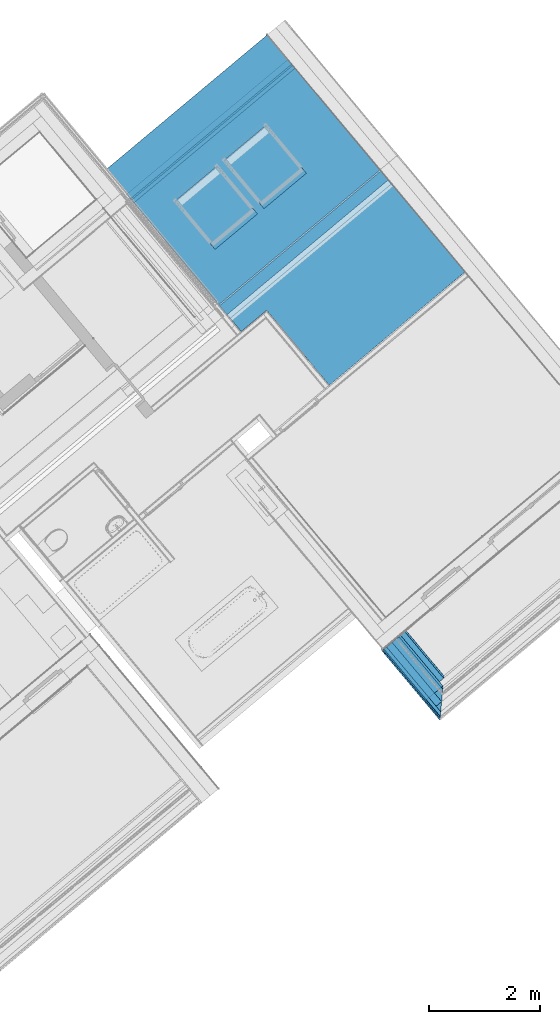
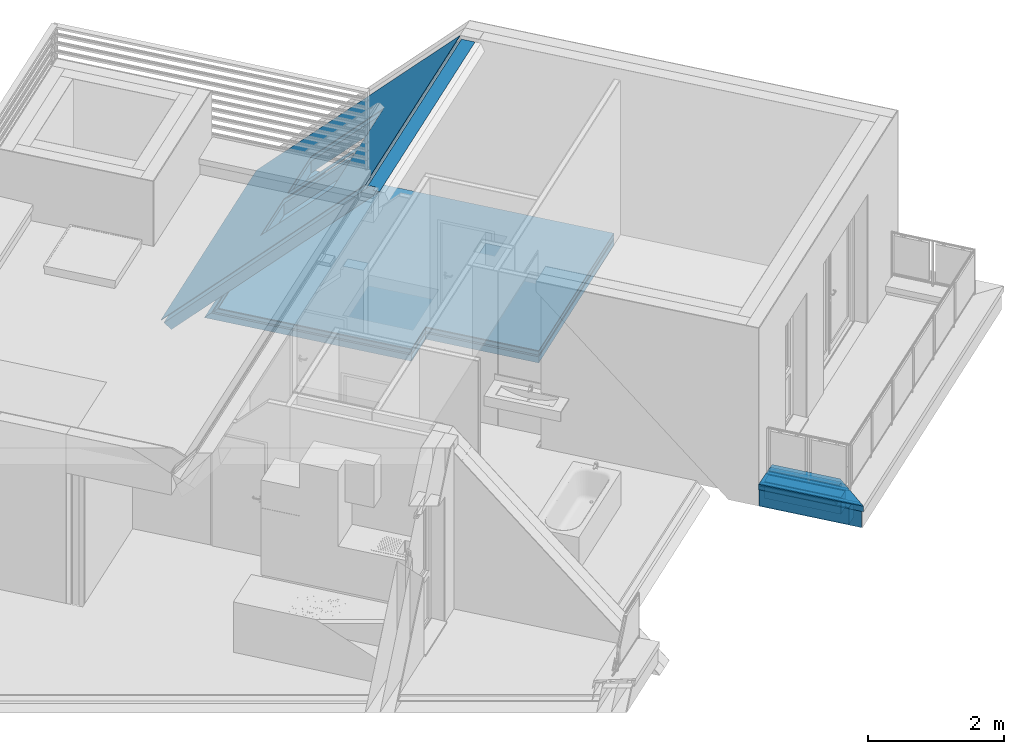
# One storey, part 32 of 50: 15 building element parts, 2 openings, 3 elements without a shape of their own.
"""IFC4 building model written with IfcOpenShell, lengths in metres."""

from ifc_helpers import new_model, entity, si_unit, converted_unit, derived_unit, direction, frame, origin_with_axes, place, context, subcontext, project, spatial, polygons, material, type_object, element, aggregate, save


model = new_model("IFC4")

# Units and contexts
model_context = context("Model", 3, precision=1e-05, world=origin_with_axes(), true_north=direction((0.0, 1.0)))
body_context = subcontext(model_context, "Body", "Model", "MODEL_VIEW")
ifc_project = project(units=[si_unit("LENGTHUNIT", "METRE"), si_unit("AREAUNIT", "SQUARE_METRE"), si_unit("VOLUMEUNIT", "CUBIC_METRE"), converted_unit("PLANEANGLEUNIT", "DEGREE", entity("IfcPlaneAngleMeasure", 0.0174532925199), si_unit("PLANEANGLEUNIT", "RADIAN"), dimensions=[0, 0, 0, 0, 0, 0, 0]), converted_unit("TIMEUNIT", "Year", entity("IfcTimeMeasure", 31556926.0), si_unit("TIMEUNIT", "SECOND"), dimensions=[0, 0, 1, 0, 0, 0, 0]), si_unit("MASSUNIT", "GRAM", prefix="KILO"), si_unit("THERMODYNAMICTEMPERATUREUNIT", "DEGREE_CELSIUS"), si_unit("LUMINOUSINTENSITYUNIT", "LUMEN"), si_unit("ENERGYUNIT", "JOULE", prefix="MEGA"), derived_unit("THERMALCONDUCTANCEUNIT", [(si_unit("POWERUNIT", "WATT"), 1), (si_unit("LENGTHUNIT", "METRE"), -1), (si_unit("THERMODYNAMICTEMPERATUREUNIT", "KELVIN"), -1)]), derived_unit("SPECIFICHEATCAPACITYUNIT", [(si_unit("ENERGYUNIT", "JOULE"), 1), (si_unit("MASSUNIT", "GRAM", prefix="KILO"), -1), (si_unit("THERMODYNAMICTEMPERATUREUNIT", "KELVIN"), -1)]), derived_unit("MASSDENSITYUNIT", [(si_unit("MASSUNIT", "GRAM", prefix="KILO"), 1), (si_unit("VOLUMEUNIT", "CUBIC_METRE"), -1)])], contexts=[model_context])

# Site, building, storey
site_placement = place(None, frame((-0.00153261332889, -0.00661245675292, 0.0), z_axis=(0.0, 0.0, 1.0), x_axis=(1.0, 0.0, 0.0)))
site = spatial("IfcSite", under=ifc_project, at=site_placement, Name="Gelände", CompositionType="ELEMENT")
building_placement = place(site_placement, origin_with_axes())
building = spatial("IfcBuilding", under=site, at=building_placement, Name="Gebäude", CompositionType="ELEMENT")
storey_placement = place(building_placement, frame((0.0, 0.0, 8.66), z_axis=(0.0, 0.0, 1.0), x_axis=(1.0, 0.0, 0.0)))
storey = spatial("IfcBuildingStorey", under=building, at=storey_placement, Name="DG2", CompositionType="ELEMENT", Elevation=8.66)

# Wall, building element parts
wall_type = type_object("IfcWallType", Name="Bauteil - Attika Terrasse 1.DG 574 x 410", PredefinedType="NOTDEFINED")
wall_placement = place(storey_placement, frame((8.86706086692, 16.7682826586, -0.2), z_axis=(0.0, 0.0, 1.0), x_axis=(-0.641709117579, 0.766948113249, 0.0)))
wall = element("IfcWall", 1, at=wall_placement, inside=storey, type_object=wall_type, Name="Wand-004", PredefinedType="NOTDEFINED")
ifc_material_1 = material(Name="Zementputz")
building_element_part_1_placement = place(wall_placement, origin_with_axes())
building_element_part_1 = element("IfcBuildingElementPart", 2, at=building_element_part_1_placement, material=ifc_material_1, Name="Zementputz", PredefinedType="NOTDEFINED", context=body_context, shape_type="Tessellation", body=[
    polygons([(-0.199999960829, 0.214999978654, 0.499999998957), (-0.199999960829, 0.199999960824, 0.499999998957), (1.39632208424, 0.199999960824, 0.499999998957), (1.39632208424, 0.214999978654, 0.499999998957), (-0.199999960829, 0.199999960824, 0.498822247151), (-0.199999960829, 0.214999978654, 0.498822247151), (-0.199999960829, 0.199999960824, 0.49100648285), (-0.199999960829, 0.199999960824, 0.488695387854), (-0.199999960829, 0.199999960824, 0.335), (-0.199999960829, 0.199999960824, 0.2), (1.39632208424, 0.199999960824, 0.2), (1.39632208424, 0.214999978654, 0.2), (-0.199999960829, 0.214999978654, 0.2), (-0.199999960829, 0.214999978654, 0.335), (-0.199999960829, 0.214999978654, 0.488695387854), (-0.199999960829, 0.214999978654, 0.49100648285)], [[[1, 2, 3, 4]], [[5, 2, 1, 6]], [[2, 5, 7, 8, 9, 10, 11, 3]], [[12, 4, 3, 11]], [[6, 1, 4, 12, 13, 14, 15, 16]], [[5, 6, 16, 7]], [[7, 16, 15, 8]], [[8, 15, 14, 9]], [[9, 14, 13, 10]], [[10, 13, 12, 11]]], closed=True),
])
ifc_material_2 = material(Name="Vollholz")
building_element_part_2_placement = place(wall_placement, origin_with_axes())
building_element_part_2 = element("IfcBuildingElementPart", 3, at=building_element_part_2_placement, material=ifc_material_2, Name="Vollholz", PredefinedType="NOTDEFINED", context=body_context, shape_type="Tessellation", body=[
    polygons([(-0.189984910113, 0.189984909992, 0.586106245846), (-0.130124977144, 0.130124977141, 0.584015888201), (1.39632208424, 0.130124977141, 0.584015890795), (1.39632208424, 0.189984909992, 0.586106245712), (-0.130124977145, 0.189996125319, 0.584015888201), (-0.130124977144, 0.130124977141, 0.575979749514), (-0.130124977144, 0.130124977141, 0.573880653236), (-0.130124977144, 0.130124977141, 0.567947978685), (-0.130124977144, 0.130124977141, 0.560000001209), (1.39632208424, 0.130124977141, 0.560000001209), (1.39632208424, 0.190124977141, 0.560000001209), (-0.130124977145, 0.190124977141, 0.560000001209), (-0.130124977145, 0.190082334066, 0.567947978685), (-0.130124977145, 0.190050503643, 0.573880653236), (-0.130124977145, 0.190039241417, 0.575979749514)], [[[1, 2, 3, 4]], [[5, 2, 1]], [[2, 6, 7, 8, 9, 10, 3]], [[3, 10, 11, 4]], [[5, 1, 4, 11, 12, 13, 14, 15]], [[2, 5, 15, 6]], [[6, 15, 14, 7]], [[7, 14, 13, 8]], [[8, 13, 12, 9]], [[9, 12, 11, 10]]], closed=True),
])
ifc_material_3 = material(Name="EPS 1")
building_element_part_3_placement = place(wall_placement, origin_with_axes())
building_element_part_3 = element("IfcBuildingElementPart", 4, at=building_element_part_3_placement, material=ifc_material_3, Name="EPS 1", PredefinedType="NOTDEFINED", context=body_context, shape_type="Tessellation", body=[
    polygons([(-2.44570586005e-10, 0.19999996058, 0.499999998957), (-2.39910313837e-10, 2.39914754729e-10, 0.499999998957), (1.39632208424, 2.39911202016e-10, 0.499999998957), (1.39632208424, 0.19999996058, 0.499999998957), (-2.39909425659e-10, 2.39914754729e-10, 0.498822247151), (-2.44572362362e-10, 0.19999996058, 0.498822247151), (-2.39909425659e-10, 2.39914754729e-10, 0.49100648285), (-2.39909425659e-10, 2.39914754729e-10, 0.488695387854), (-2.39909425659e-10, 2.39914754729e-10, 0.335), (-2.39910313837e-10, 2.39914754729e-10, 0.2), (1.39632208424, 2.39911202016e-10, 0.2), (1.39632208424, 0.19999996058, 0.2), (-2.44570586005e-10, 0.19999996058, 0.2), (-2.44572362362e-10, 0.19999996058, 0.335), (-2.44572362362e-10, 0.19999996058, 0.488695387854), (-2.44572362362e-10, 0.19999996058, 0.49100648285)], [[[1, 2, 3, 4]], [[5, 2, 1, 6]], [[2, 5, 7, 8, 9, 10, 11, 3]], [[11, 12, 4, 3]], [[6, 1, 4, 12, 13, 14, 15, 16]], [[5, 6, 16, 7]], [[7, 16, 15, 8]], [[8, 15, 14, 9]], [[9, 14, 13, 10]], [[10, 13, 12, 11]]], closed=True),
])
ifc_material_4 = material(Name="Brettschichtholz")
building_element_part_4_placement = place(wall_placement, origin_with_axes())
building_element_part_4 = element("IfcBuildingElementPart", 5, at=building_element_part_4_placement, material=ifc_material_4, Name="Brettschichtholz", PredefinedType="NOTDEFINED", context=body_context, shape_type="Tessellation", body=[
    polygons([(0.200000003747, -0.159999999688, 0.559999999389), (0.200000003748, -0.200000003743, 0.559999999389), (1.39632208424, -0.200000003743, 0.559999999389), (1.39632208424, -0.159999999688, 0.559999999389), (0.200000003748, -0.200000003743, 0.519224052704), (0.200000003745, -0.100000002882, 0.559999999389), (0.20000000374, 0.130124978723, 0.559999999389), (0.200000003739, 0.190124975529, 0.559999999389), (0.200000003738, 0.214999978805, 0.559999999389), (0.200000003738, 0.214999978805, 0.519224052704), (0.200000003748, -0.200000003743, 0.511361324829), (0.200000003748, -0.200000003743, 0.50905023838), (0.200000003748, -0.200000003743, 0.500000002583), (1.39632208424, -0.200000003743, 0.500000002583), (1.39632208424, 0.214999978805, 0.499999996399), (1.39632208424, 0.214999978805, 0.559999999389), (1.39632208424, 0.190124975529, 0.559999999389), (1.39632208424, 0.130124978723, 0.559999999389), (1.39632208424, -0.100000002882, 0.559999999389), (0.200000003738, 0.214999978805, 0.500000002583), (0.200000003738, 0.214999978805, 0.50905023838), (0.200000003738, 0.214999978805, 0.511361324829)], [[[1, 2, 3, 4]], [[5, 2, 1, 6, 7, 8, 9, 10]], [[2, 5, 11, 12, 13, 14, 3]], [[14, 15, 16, 17, 18, 19, 4, 3]], [[6, 1, 4, 19]], [[7, 6, 19, 18]], [[8, 7, 18, 17]], [[9, 8, 17, 16]], [[10, 9, 16, 15, 20, 21, 22]], [[5, 10, 22, 11]], [[11, 22, 21, 12]], [[12, 21, 20, 13]], [[13, 20, 15, 14]]], closed=True),
])
ifc_material_5 = material(Name="Stahlbeton")
building_element_part_5_placement = place(wall_placement, origin_with_axes())
building_element_part_5 = element("IfcBuildingElementPart", 6, at=building_element_part_5_placement, material=ifc_material_5, Name="Stahlbeton", PredefinedType="NOTDEFINED", context=body_context, shape_type="Tessellation", body=[
    polygons([(0.199999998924, -1.8283543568e-09, 0.500000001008), (0.199999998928, -0.199999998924, 0.500000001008), (1.39632208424, -0.199999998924, 0.500000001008), (1.39632208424, -1.8283543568e-09, 0.500000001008), (0.199999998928, -0.199999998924, 0.498822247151), (0.199999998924, -1.8283543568e-09, 0.498822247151), (0.199999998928, -0.199999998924, 0.49100648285), (0.199999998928, -0.199999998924, 0.488695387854), (0.199999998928, -0.199999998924, 0.335), (1.39632208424, -0.199999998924, 0.335000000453), (1.39632208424, -0.199999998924, 0.2), (1.39632208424, -1.8283543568e-09, 0.2), (0.199999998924, -1.8283543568e-09, 0.2), (0.199999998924, -1.8283543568e-09, 0.335), (0.199999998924, -1.8283543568e-09, 0.488695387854), (0.199999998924, -1.8283543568e-09, 0.49100648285), (0.199999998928, -0.199999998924, 0.2)], [[[1, 2, 3, 4]], [[5, 2, 1, 6]], [[2, 5, 7, 8, 9, 10, 3]], [[11, 12, 4, 3, 10]], [[6, 1, 4, 12, 13, 14, 15, 16]], [[5, 6, 16, 7]], [[7, 16, 15, 8]], [[8, 15, 14, 9]], [[9, 17, 11, 10]], [[17, 13, 12, 11]], [[9, 14, 13, 17]]], closed=True),
])
building_element_part_6_placement = place(wall_placement, origin_with_axes())
building_element_part_6 = element("IfcBuildingElementPart", 7, at=building_element_part_6_placement, material=ifc_material_2, Name="Vollholz", PredefinedType="NOTDEFINED", context=body_context, shape_type="Tessellation", body=[
    polygons([(0.100000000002, -0.1, 0.575979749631), (0.160110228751, -0.160110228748, 0.573880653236), (1.39632208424, -0.160110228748, 0.573880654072), (1.39632208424, -0.1, 0.575979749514), (0.16011022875, -0.1, 0.573880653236), (0.160063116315, -0.160063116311, 0.567947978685), (0.160000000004, -0.16, 0.560000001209), (1.39632208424, -0.16, 0.560000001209), (1.39632208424, -0.1, 0.560000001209), (0.160000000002, -0.1, 0.560000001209), (0.160063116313, -0.1, 0.567947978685)], [[[1, 2, 3, 4]], [[5, 2, 1]], [[2, 6, 7, 8, 3]], [[3, 8, 9, 4]], [[5, 1, 4, 9, 10, 11]], [[2, 5, 11, 6]], [[6, 11, 10, 7]], [[7, 10, 9, 8]]], closed=True),
])
building_element_part_7_placement = place(wall_placement, origin_with_axes())
building_element_part_7 = element("IfcBuildingElementPart", 8, at=building_element_part_7_placement, material=ifc_material_3, Name="EPS 1", PredefinedType="NOTDEFINED", context=body_context, shape_type="Tessellation", body=[
    polygons([(0.300000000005, -0.2, 0.560000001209), (0.300000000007, -0.3, 0.560000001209), (1.39632208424, -0.3, 0.560000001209), (1.39632208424, -0.2, 0.560000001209), (0.300000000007, -0.3, 0.519224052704), (0.300000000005, -0.2, 0.519224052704), (0.300000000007, -0.3, 0.511361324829), (0.300000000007, -0.3, 0.50905023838), (0.300000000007, -0.3, 0.499999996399), (0.300000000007, -0.3, 0.498822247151), (0.300000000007, -0.3, 0.49100648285), (0.300000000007, -0.3, 0.488695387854), (0.300000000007, -0.3, 0.335), (1.39632208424, -0.3, 0.335), (1.39632208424, -0.2, 0.335), (0.300000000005, -0.2, 0.335), (0.300000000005, -0.2, 0.488695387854), (0.300000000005, -0.2, 0.49100648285), (0.300000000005, -0.2, 0.498822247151), (0.300000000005, -0.2, 0.499999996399), (0.300000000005, -0.2, 0.50905023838), (0.300000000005, -0.2, 0.511361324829)], [[[1, 2, 3, 4]], [[5, 2, 1, 6]], [[2, 5, 7, 8, 9, 10, 11, 12, 13, 14, 3]], [[14, 15, 4, 3]], [[6, 1, 4, 15, 16, 17, 18, 19, 20, 21, 22]], [[5, 6, 22, 7]], [[7, 22, 21, 8]], [[8, 21, 20, 9]], [[9, 20, 19, 10]], [[10, 19, 18, 11]], [[11, 18, 17, 12]], [[12, 17, 16, 13]], [[13, 16, 15, 14]]], closed=True),
])
ifc_material_6 = material(Name="Holzwerkstoff")
building_element_part_8_placement = place(wall_placement, origin_with_axes())
building_element_part_8 = element("IfcBuildingElementPart", 9, at=building_element_part_8_placement, material=ifc_material_6, Name="Holzwerkstoff", PredefinedType="NOTDEFINED", context=body_context, shape_type="Tessellation", body=[
    polygons([(1.39632208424, -0.100000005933, 0.575979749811), (1.39632208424, -0.160110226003, 0.573880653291), (0.330207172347, -0.160110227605, 0.573880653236), (0.33028047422, -0.100000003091, 0.57597974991), (1.39632208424, 0.189984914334, 0.586106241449), (1.39632208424, 0.239999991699, 0.587852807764), (1.39632208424, 0.239276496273, 0.608570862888), (1.39632208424, -0.330698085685, 0.587938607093), (1.39632208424, -0.329999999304, 0.567947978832), (1.39632208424, 0.130124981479, 0.584015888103), (0.32999999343, -0.329999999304, 0.567947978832), (0.330207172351, -0.330207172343, 0.573880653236), (0.330280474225, -0.330280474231, 0.57597974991), (0.330561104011, 0.13012498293, 0.584015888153), (0.330634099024, 0.189984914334, 0.586106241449), (0.330695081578, 0.239999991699, 0.587852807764), (0.330698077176, 0.23999699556, 0.587938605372), (-0.239276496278, 0.239276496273, 0.608570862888), (0.330698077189, -0.330698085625, 0.587938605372), (0.330634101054, -0.330634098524, 0.586106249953), (0.330561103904, -0.330561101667, 0.584015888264)], [[[1, 2, 3, 4]], [[5, 6, 7, 8, 9, 2, 1, 10]], [[2, 9, 11, 3]], [[4, 3, 12, 13]], [[10, 1, 4, 14]], [[6, 5, 15, 16]], [[6, 16, 17, 18, 7]], [[8, 7, 18, 19]], [[9, 8, 19, 20, 21, 13, 12, 11]], [[5, 10, 14, 15]], [[11, 12, 3]], [[14, 4, 13, 21]], [[16, 15, 20, 19, 17]], [[18, 17, 19]], [[15, 14, 21, 20]]], closed=True),
])
ifc_material_7 = material(Name="Stahl")
building_element_part_9_placement = place(wall_placement, origin_with_axes())
building_element_part_9 = element("IfcBuildingElementPart", 10, at=building_element_part_9_placement, material=ifc_material_7, Name="Stahl", PredefinedType="NOTDEFINED", context=body_context, shape_type="Tessellation", body=[
    polygons([(-0.240150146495, 0.241500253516, 0.567947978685), (-0.240149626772, 0.241500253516, 0.559999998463), (-0.240149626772, 0.240149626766, 0.559999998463), (-0.240150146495, 0.240150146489, 0.567947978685), (-0.239585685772, 0.241500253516, 0.510007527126), (-0.23823188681, 0.241500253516, 0.511361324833), (-0.240146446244, 0.241500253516, 0.511361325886), (-0.240146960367, 0.241500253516, 0.519224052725), (-0.240150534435, 0.241500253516, 0.573880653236), (-0.240150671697, 0.241500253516, 0.575979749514), (-0.240151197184, 0.241500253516, 0.584015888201), (-0.240151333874, 0.241500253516, 0.586106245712), (-0.240151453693, 0.241500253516, 0.587938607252), (-0.240152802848, 0.241500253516, 0.608570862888), (-0.240152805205, 0.241500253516, 0.608602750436), (-0.202730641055, 0.241500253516, 0.608602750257), (-0.241500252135, 0.241500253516, 0.610006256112), (1.39632208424, 0.241500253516, 0.610006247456), (1.39632208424, 0.241500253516, 0.510007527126), (-0.240146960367, 0.240146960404, 0.519224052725), (-0.23823188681, 0.240146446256, 0.511361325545), (1.39632208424, 0.240146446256, 0.51136132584), (1.39632208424, 0.240152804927, 0.608602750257), (-0.202730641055, 0.240152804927, 0.608602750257), (-0.240152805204, 0.240152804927, 0.608602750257), (-0.240152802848, 0.240152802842, 0.608570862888), (-0.240151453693, 0.240151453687, 0.587938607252), (-0.240151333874, 0.240151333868, 0.586106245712), (-0.240151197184, 0.240151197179, 0.584015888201), (-0.240150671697, 0.240150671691, 0.575979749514), (-0.240150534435, 0.24015053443, 0.573880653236), (-0.240146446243, 0.240146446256, 0.51136132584), (-0.240542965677, 0.240542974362, 0.50905023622), (-0.23823188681, 0.238231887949, 0.51136132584), (-0.202730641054, 0.202730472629, 0.608602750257), (-0.201849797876, 0.201849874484, 0.608570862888), (0.332051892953, -0.332051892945, 0.589243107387), (1.39632208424, -0.332051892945, 0.589243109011), (1.39632208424, 0.240542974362, 0.509050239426), (1.39632208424, -0.332051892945, 0.489652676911), (1.39632208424, -0.331094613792, 0.488695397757), (1.39632208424, -0.321878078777, 0.497911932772), (1.39632208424, -0.32288233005, 0.498822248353), (1.39632208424, -0.330698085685, 0.491006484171), (1.39632208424, -0.330698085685, 0.587937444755), (1.39632208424, 0.239276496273, 0.608570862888), (1.39632208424, 0.232283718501, 0.519224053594), (1.39632208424, 0.231373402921, 0.518219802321), (-0.231373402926, 0.233287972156, 0.518219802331), (-0.232283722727, 0.232283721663, 0.519224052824), (-0.201849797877, 0.239276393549, 0.608570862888), (-0.231373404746, 0.231373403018, 0.518219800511), (0.332051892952, -0.294630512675, 0.589243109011), (0.332051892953, -0.332051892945, 0.587938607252), (0.332051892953, -0.332051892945, 0.586106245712), (0.332051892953, -0.332051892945, 0.584015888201), (0.332051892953, -0.332051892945, 0.575979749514), (0.332051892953, -0.332051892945, 0.573880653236), (0.332051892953, -0.332051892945, 0.567947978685), (0.332051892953, -0.332051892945, 0.559999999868), (0.332051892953, -0.332051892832, 0.519224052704), (0.332051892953, -0.332051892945, 0.511361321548), (0.332051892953, -0.332051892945, 0.50905024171), (0.332051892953, -0.332051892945, 0.499999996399), (0.332051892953, -0.332051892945, 0.498822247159), (0.332051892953, -0.332051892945, 0.49100648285), (0.332051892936, -0.332051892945, 0.489652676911), (0.331094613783, -0.331094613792, 0.488695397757), (0.332051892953, -0.330137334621, 0.489652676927), (0.332051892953, -0.328783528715, 0.491006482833), (0.330698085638, -0.328783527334, 0.491006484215), (0.323792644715, -0.321878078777, 0.497911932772), (0.322882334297, -0.32288233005, 0.498822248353), (0.330698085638, -0.330698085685, 0.491006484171), (0.332051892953, -0.330698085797, 0.49100648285), (0.332051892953, -0.330698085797, 0.498822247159), (0.332051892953, -0.330698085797, 0.499999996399), (0.332051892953, -0.330698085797, 0.50905024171), (0.332051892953, -0.330698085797, 0.511361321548), (0.332051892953, -0.330698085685, 0.519224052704), (0.332051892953, -0.330698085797, 0.559999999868), (0.332051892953, -0.330698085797, 0.567947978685), (0.332051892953, -0.330698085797, 0.573880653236), (0.332051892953, -0.330698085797, 0.575979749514), (0.332051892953, -0.330698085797, 0.584015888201), (0.332051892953, -0.330698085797, 0.586106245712), (0.332051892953, -0.330698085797, 0.587937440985), (0.332051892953, -0.330665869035, 0.587938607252)], [[[1, 2, 3, 4]], [[5, 6, 7, 8, 2, 1, 9, 10, 11, 12, 13, 14, 15, 16, 17, 18, 19]], [[2, 8, 20, 3]], [[21, 22, 23, 24, 25, 26, 27, 28, 29, 30, 31, 4, 3, 20, 32]], [[9, 1, 4, 31]], [[6, 5, 33, 34, 21]], [[7, 6, 21, 32]], [[8, 7, 32, 20]], [[10, 9, 31, 30]], [[11, 10, 30, 29]], [[12, 11, 29, 28]], [[13, 12, 28, 27]], [[14, 13, 27, 26]], [[14, 26, 25, 15]], [[16, 15, 25, 24]], [[17, 16, 24, 35]], [[18, 17, 35, 36, 37, 38]], [[39, 19, 18, 38, 40, 41, 42, 43, 44, 45, 46, 23, 22, 47, 48]], [[33, 5, 19, 39]], [[21, 49, 50, 47, 22]], [[23, 46, 51, 24]], [[33, 39, 48, 52, 34]], [[49, 21, 34, 52]], [[24, 51, 36, 35]], [[36, 51, 53, 37]], [[40, 38, 37, 54, 55, 56, 57, 58, 59, 60, 61, 62, 63, 64, 65, 66, 67]], [[41, 40, 67, 68]], [[42, 41, 68, 69, 70, 71, 72]], [[43, 42, 72, 73]], [[44, 43, 73, 74, 75]], [[45, 44, 75, 76, 77, 78, 79, 80, 81, 82, 83, 84, 85, 86, 87]], [[51, 46, 45, 87, 88, 53]], [[48, 47, 50, 52]], [[50, 49, 52]], [[53, 88, 87, 54, 37]], [[87, 86, 55, 54]], [[86, 85, 56, 55]], [[85, 84, 57, 56]], [[84, 83, 58, 57]], [[83, 82, 59, 58]], [[82, 81, 60, 59]], [[60, 81, 80, 61]], [[79, 62, 61, 80]], [[79, 78, 63, 62]], [[78, 77, 64, 63]], [[77, 76, 65, 64]], [[76, 75, 66, 65]], [[70, 69, 67, 66, 75]], [[69, 68, 67]], [[71, 70, 75, 74]], [[72, 71, 74, 73]]], closed=True),
])
aggregate(wall, [building_element_part_1, building_element_part_2, building_element_part_3, building_element_part_4, building_element_part_5, building_element_part_6, building_element_part_7, building_element_part_8, building_element_part_9])

# Covering, building element parts
covering_type = type_object("IfcCoveringType", Name="DE 01 Decke Wohnung/Wohnung Parkett 220", PredefinedType="NOTDEFINED")
covering_placement = place(storey_placement, frame((6.83696947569, 22.4856827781, 0.22), z_axis=(0.0, 0.0, 1.0), x_axis=(1.0, 0.0, 0.0)))
covering = element("IfcCovering", 11, at=covering_placement, inside=storey, type_object=covering_type, Name="Decke-009", PredefinedType="NOTDEFINED")
ifc_material_8 = material(Name="Parkett")
building_element_part_10_placement = place(covering_placement, origin_with_axes())
building_element_part_10 = element("IfcBuildingElementPart", 12, at=building_element_part_10_placement, material=ifc_material_8, Name="Parkett", PredefinedType="NOTDEFINED", context=body_context, shape_type="Tessellation", body=[
    polygons([(-0.620803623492, 5.73266490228, -0.015), (-0.611185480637, 5.72115441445, 0.0), (2.45515313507, 2.05152152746, 0.0), (2.45515313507, 2.05152152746, -0.015), (-3.52550376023, 3.28644375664, 0.0), (-3.53511644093, 3.29795880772, -0.015), (-1.59317998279, 0.971708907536, 0.0), (-1.13295568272, 1.35590079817, 0.0), (0.0, 0.0, 0.0), (0.0, 0.0, -0.015), (-1.13295568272, 1.35590079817, -0.015), (-1.59317998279, 0.971708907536, -0.015)], [[[1, 2, 3, 4]], [[5, 2, 1, 6]], [[2, 5, 7, 8, 9, 3]], [[10, 4, 3, 9]], [[6, 1, 4, 10, 11, 12]], [[5, 6, 12, 7]], [[7, 12, 11, 8]], [[8, 11, 10, 9]]], closed=True),
])
ifc_material_9 = material(Name="Estrich")
building_element_part_11_placement = place(covering_placement, origin_with_axes())
building_element_part_11 = element("IfcBuildingElementPart", 13, at=building_element_part_11_placement, material=ifc_material_9, Name="Estrich", PredefinedType="NOTDEFINED", context=body_context, shape_type="Tessellation", body=[
    polygons([(-0.662482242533, 5.7825436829, -0.08), (-0.620803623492, 5.73266490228, -0.015), (2.45515313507, 2.05152152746, -0.015), (2.45515313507, 2.05152152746, -0.08), (-3.53511644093, 3.29795880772, -0.015), (-3.57677139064, 3.34785736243, -0.08), (-1.59317998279, 0.971708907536, -0.015), (-1.13295568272, 1.35590079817, -0.015), (0.0, 0.0, -0.015), (0.0, 0.0, -0.08), (-1.13295568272, 1.35590079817, -0.08), (-1.59317998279, 0.971708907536, -0.08)], [[[1, 2, 3, 4]], [[5, 2, 1, 6]], [[2, 5, 7, 8, 9, 3]], [[10, 4, 3, 9]], [[6, 1, 4, 10, 11, 12]], [[5, 6, 12, 7]], [[7, 12, 11, 8]], [[8, 11, 10, 9]]], closed=True),
])
ifc_material_10 = material(Name="Trittschalldämmung")
building_element_part_12_placement = place(covering_placement, origin_with_axes())
building_element_part_12 = element("IfcBuildingElementPart", 14, at=building_element_part_12_placement, material=ifc_material_10, Name="Trittschalldämmung", PredefinedType="NOTDEFINED", context=body_context, shape_type="Tessellation", body=[
    polygons([(-0.681718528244, 5.80556465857, -0.11), (-0.662482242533, 5.7825436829, -0.08), (2.45515313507, 2.05152152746, -0.08), (2.45515313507, 2.05152152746, -0.11), (-3.57677139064, 3.34785736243, -0.08), (-3.59599675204, 3.3708874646, -0.11), (-1.59317998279, 0.971708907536, -0.08), (-1.13295568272, 1.35590079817, -0.08), (0.0, 0.0, -0.08), (0.0, 0.0, -0.11), (-1.13295568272, 1.35590079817, -0.11), (-1.59317998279, 0.971708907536, -0.11)], [[[1, 2, 3, 4]], [[5, 2, 1, 6]], [[2, 5, 7, 8, 9, 3]], [[10, 4, 3, 9]], [[6, 1, 4, 10, 11, 12]], [[5, 6, 12, 7]], [[7, 12, 11, 8]], [[8, 11, 10, 9]]], closed=True),
])
ifc_material_11 = material(Name="Schüttung")
building_element_part_13_placement = place(covering_placement, origin_with_axes())
building_element_part_13 = element("IfcBuildingElementPart", 15, at=building_element_part_13_placement, material=ifc_material_11, Name="Schüttung", PredefinedType="NOTDEFINED", context=body_context, shape_type="Tessellation", body=[
    polygons([(-0.752251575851, 5.8899749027, -0.22), (-0.681718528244, 5.80556465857, -0.11), (2.45515313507, 2.05152152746, -0.11), (2.45515313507, 2.05152152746, -0.22), (-3.59599675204, 3.3708874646, -0.11), (-3.66648974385, 3.45533117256, -0.22), (-1.59317998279, 0.971708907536, -0.11), (-1.13295568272, 1.35590079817, -0.11), (0.0, 0.0, -0.11), (0.0, 0.0, -0.22), (-1.13295568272, 1.35590079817, -0.22), (-1.59317998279, 0.971708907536, -0.22)], [[[1, 2, 3, 4]], [[5, 2, 1, 6]], [[2, 5, 7, 8, 9, 3]], [[10, 4, 3, 9]], [[6, 1, 4, 10, 11, 12]], [[5, 6, 12, 7]], [[8, 7, 12, 11]], [[9, 8, 11, 10]]], closed=True),
])
aggregate(covering, [building_element_part_10, building_element_part_11, building_element_part_12, building_element_part_13])

# Space
space_placement = place(storey_placement, frame((1.54811484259, 24.5632734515, 0.22), z_axis=(0.0, 0.0, 1.0), x_axis=(0.640845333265, -0.767670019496, 0.0)))
space = spatial("IfcSpace", under=storey, at=space_placement, CompositionType="ELEMENT", PredefinedType="NOTDEFINED")

# Roof, openings, building element parts
roof_type = type_object("IfcRoofType", Name="Schrägdach Dachaufbau 210", PredefinedType="NOTDEFINED")
roof_placement = place(space_placement, frame((-0.819675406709, 1.84318645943, -0.738984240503), z_axis=(0.0, 0.0, 1.0), x_axis=(-0.000375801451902, 0.999999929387, 0.0)))
roof = element("IfcRoof", 16, at=roof_placement, inside=space, type_object=roof_type, Name="Dach-001", PredefinedType="NOTDEFINED")
opening_1_placement = place(roof_placement, frame((2.52396238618, -1.46460728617, 1.24260789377), z_axis=(0.0, 0.0, 1.0), x_axis=(1.0, 0.0, 0.0)))
element("IfcOpeningElement", 17, at=opening_1_placement, cuts=roof, Name="DFenst-002", context=body_context, identifier="Reference", shape_type="Tessellation", body=[
    polygons([(-0.5, -1.1313708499, 1.6503550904), (0.5, -1.1313708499, 1.6503550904), (0.5, -1.13066374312, 1.65106219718), (-0.5, -1.13066374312, 1.65106219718), (-0.5, -1.42976991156, 1.6503550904), (0.5, -1.42976991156, 1.6503550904), (0.5, 0.0, 0.518984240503), (0.5, 0.000707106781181, 0.519691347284), (-0.5, 0.000707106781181, 0.519691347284), (-0.5, 0.0, 0.518984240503), (-0.5, 0.0, 0.220585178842), (0.5, 0.0, 0.220585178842)], [[[1, 2, 3, 4]], [[2, 1, 5, 6]], [[2, 7, 8, 3]], [[3, 8, 9, 4]], [[10, 1, 4, 9]], [[1, 10, 11, 5]], [[5, 11, 12, 6]], [[7, 2, 6, 12]], [[7, 10, 9, 8]], [[10, 7, 12, 11]]], closed=True),
])
opening_2_placement = place(roof_placement, frame((1.37397891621, -1.46238046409, 1.24038107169), z_axis=(0.0, 0.0, 1.0), x_axis=(1.0, 0.0, 0.0)))
element("IfcOpeningElement", 18, at=opening_2_placement, cuts=roof, Name="DFenst-002", context=body_context, identifier="Reference", shape_type="Tessellation", body=[
    polygons([(-0.5, -1.1313708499, 1.6503550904), (0.5, -1.1313708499, 1.6503550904), (0.5, -1.13066374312, 1.65106219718), (-0.5, -1.13066374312, 1.65106219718), (-0.5, -1.42976991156, 1.6503550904), (0.5, -1.42976991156, 1.6503550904), (0.5, 0.0, 0.518984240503), (0.5, 0.000707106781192, 0.519691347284), (-0.5, 0.000707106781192, 0.519691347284), (-0.5, 0.0, 0.518984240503), (-0.5, 0.0, 0.220585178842), (0.5, 0.0, 0.220585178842)], [[[1, 2, 3, 4]], [[2, 1, 5, 6]], [[2, 7, 8, 3]], [[3, 8, 9, 4]], [[10, 1, 4, 9]], [[1, 10, 11, 5]], [[5, 11, 12, 6]], [[7, 2, 6, 12]], [[7, 10, 9, 8]], [[10, 7, 12, 11]]], closed=True),
])
ifc_material_12 = material(Name="Stehfalz")
building_element_part_14_placement = place(roof_placement, origin_with_axes())
building_element_part_14 = element("IfcBuildingElementPart", 19, at=building_element_part_14_placement, material=ifc_material_12, Name="Stehfalz", PredefinedType="NOTDEFINED", context=body_context, shape_type="Tessellation", body=[
    polygons([(0.00619434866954, -3.42092199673, 3.71790684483), (0.221229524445, -3.42090077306, 3.71788562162), (0.221234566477, -3.40590075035, 3.70288559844), (4.08297533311, -3.40551960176, 3.70250444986), (4.08708111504, -0.222046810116, 0.519031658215), (0.00694705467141, -0.222998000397, 0.519982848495), (2.02396238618, -1.46460728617, 1.76159213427), (3.02396238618, -1.46460728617, 1.76159213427), (3.02396238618, -2.59597813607, 2.89296298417), (2.02396238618, -2.59597813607, 2.89296298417), (0.873978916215, -2.59375131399, 2.89073616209), (0.873978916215, -1.46238046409, 1.75936531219), (1.87397891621, -1.46238046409, 1.75936531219), (1.87397891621, -2.59375131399, 2.89073616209), (0.221229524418, -3.42090077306, 3.703743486), (0.00619539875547, -3.42092199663, 3.7089842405), (0.00622952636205, -3.42092199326, 3.7089842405), (0.00622952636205, -3.42092199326, 3.70376470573), (0.22123456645, -3.4059007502, 3.68874346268), (4.08298445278, -3.40551960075, 3.68836231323), (4.08707991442, -0.230048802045, 0.51289151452), (0.00694683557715, -0.230999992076, 0.513842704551), (0.00619478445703, -3.42614152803, 3.7089842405), (2.02396238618, -1.46460728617, 1.74744999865), (3.02396238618, -1.46460728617, 1.74744999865), (3.02396238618, -2.6101202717, 2.89296298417), (2.02396238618, -2.6101202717, 2.89296298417), (0.873978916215, -2.60789344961, 2.89073616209), (0.873978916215, -1.46238046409, 1.74522317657), (1.87397891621, -1.46238046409, 1.74522317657), (1.87397891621, -2.60789344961, 2.89073616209), (0.00622777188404, -3.42614152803, 3.7089842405)], [[[1, 2, 3, 4, 5, 6], [7, 8, 9, 10], [11, 12, 13, 14]], [[15, 2, 1, 16, 17, 18]], [[2, 15, 19, 3]], [[20, 4, 3, 19]], [[4, 20, 21, 5]], [[21, 22, 6, 5]], [[16, 1, 6, 22, 23]], [[8, 7, 24, 25]], [[25, 26, 9, 8]], [[26, 27, 10, 9]], [[27, 24, 7, 10]], [[11, 28, 29, 12]], [[30, 13, 12, 29]], [[13, 30, 31, 14]], [[14, 31, 28, 11]], [[23, 32, 17, 16]], [[32, 18, 17]], [[32, 23, 22, 21, 20, 19, 15, 18], [24, 27, 26, 25], [30, 29, 28, 31]]], closed=True),
])
building_element_part_15_placement = place(roof_placement, origin_with_axes())
building_element_part_15 = element("IfcBuildingElementPart", 20, at=building_element_part_15_placement, material=ifc_material_3, Name="EPS 1", PredefinedType="NOTDEFINED", context=body_context, shape_type="Tessellation", body=[
    polygons([(4.08286574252, -3.63898424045, 3.6389842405), (4.08705590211, -0.390088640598, 0.390088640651), (4.08707391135, -0.270058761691, 0.482190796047), (4.08300253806, -3.42685220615, 3.6389842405), (0.00617797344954, -3.63898424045, 3.6389842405), (0.0069424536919, -0.391039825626, 0.391039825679), (2.02396238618, -2.89296298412, 2.89296298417), (3.02396238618, -2.89296298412, 2.89296298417), (3.02396238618, -1.46460728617, 1.46460728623), (2.02396238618, -1.46460728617, 1.46460728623), (0.873978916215, -1.46238046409, 1.46238046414), (0.873978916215, -2.89073616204, 2.89073616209), (1.87397891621, -2.89073616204, 2.89073616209), (1.87397891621, -1.46238046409, 1.46238046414), (0.00694574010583, -0.271009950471, 0.483141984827), (0.00620400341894, -3.49685220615, 3.7089842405), (0.00622753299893, -3.42685220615, 3.6389842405), (0.00618646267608, -3.49685220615, 3.7089842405), (3.02396238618, -1.46460728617, 1.67673932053), (3.02396238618, -2.68083094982, 2.89296298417), (2.02396238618, -2.68083094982, 2.89296298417), (2.02396238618, -1.46460728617, 1.67673932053), (0.873978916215, -1.46238046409, 1.67451249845), (1.87397891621, -1.46238046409, 1.67451249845), (1.87397891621, -2.67860412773, 2.89073616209), (0.873978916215, -2.67860412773, 2.89073616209), (0.00618968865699, -3.53943831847, 3.6389842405), (0.00617701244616, -3.57714977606, 3.7089842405)], [[[1, 2, 3, 4]], [[1, 5, 6, 2], [7, 8, 9, 10], [11, 12, 13, 14]], [[6, 15, 3, 2]], [[16, 17, 4, 3, 15, 18], [19, 20, 21, 22], [23, 24, 25, 26]], [[5, 1, 4, 17, 27]], [[5, 27, 28, 18, 15, 6]], [[7, 21, 20, 8]], [[8, 20, 19, 9]], [[22, 10, 9, 19]], [[10, 22, 21, 7]], [[12, 11, 23, 26]], [[13, 12, 26, 25]], [[14, 13, 25, 24]], [[24, 23, 11, 14]], [[16, 28, 27, 17]], [[16, 18, 28]]], closed=True),
])
aggregate(roof, [building_element_part_14, building_element_part_15])

save(model, "model.ifc")
